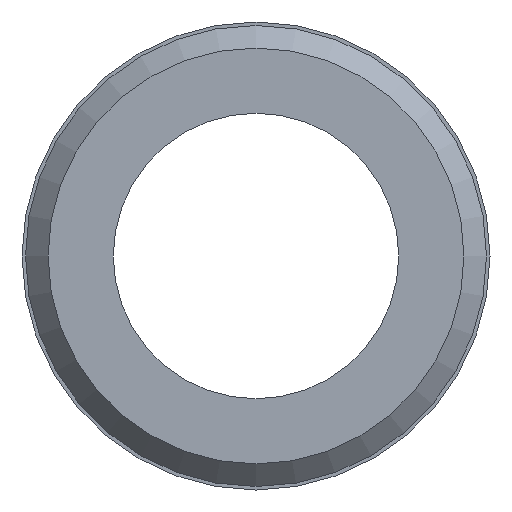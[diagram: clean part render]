
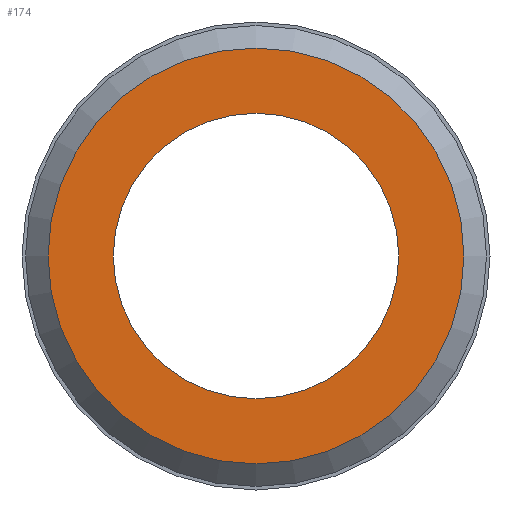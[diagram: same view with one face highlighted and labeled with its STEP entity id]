
A CAD part, front view. The second image highlights one B-rep face of the part: STEP entity #174.
In plain terms, the highlighted planar face has unit normal (0, -1, 0).
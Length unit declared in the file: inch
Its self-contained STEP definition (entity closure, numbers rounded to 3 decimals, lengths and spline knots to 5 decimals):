
#16=FACE_BOUND('',#41,.T.);
#20=PLANE('',#202);
#30=FACE_OUTER_BOUND('',#40,.T.);
#40=EDGE_LOOP('',(#133));
#41=EDGE_LOOP('',(#134,#135));
#62=CIRCLE('',#197,0.1675);
#66=CIRCLE('',#203,0.115);
#67=CIRCLE('',#204,0.115);
#81=VERTEX_POINT('',#292);
#85=VERTEX_POINT('',#304);
#86=VERTEX_POINT('',#305);
#99=EDGE_CURVE('',#81,#81,#62,.T.);
#105=EDGE_CURVE('',#85,#86,#66,.T.);
#106=EDGE_CURVE('',#86,#85,#67,.T.);
#133=ORIENTED_EDGE('',*,*,#99,.F.);
#134=ORIENTED_EDGE('',*,*,#105,.F.);
#135=ORIENTED_EDGE('',*,*,#106,.F.);
#174=ADVANCED_FACE('',(#30,#16),#20,.T.);
#197=AXIS2_PLACEMENT_3D('',#293,#229,#230);
#202=AXIS2_PLACEMENT_3D('',#303,#241,#242);
#203=AXIS2_PLACEMENT_3D('',#306,#243,#244);
#204=AXIS2_PLACEMENT_3D('',#307,#245,#246);
#229=DIRECTION('center_axis',(0.,1.,0.));
#230=DIRECTION('ref_axis',(0.,0.,1.));
#241=DIRECTION('center_axis',(0.,-1.,0.));
#242=DIRECTION('ref_axis',(0.,0.,-1.));
#243=DIRECTION('center_axis',(0.,-1.,0.));
#244=DIRECTION('ref_axis',(1.,0.,0.));
#245=DIRECTION('center_axis',(0.,-1.,0.));
#246=DIRECTION('ref_axis',(1.,0.,0.));
#292=CARTESIAN_POINT('',(0.,0.,-0.1675));
#293=CARTESIAN_POINT('Origin',(0.,0.,0.));
#303=CARTESIAN_POINT('Origin',(0.,0.,-0.115));
#304=CARTESIAN_POINT('',(0.,0.,-0.115));
#305=CARTESIAN_POINT('',(0.,0.,0.115));
#306=CARTESIAN_POINT('Origin',(0.,0.,0.));
#307=CARTESIAN_POINT('Origin',(0.,0.,0.));
